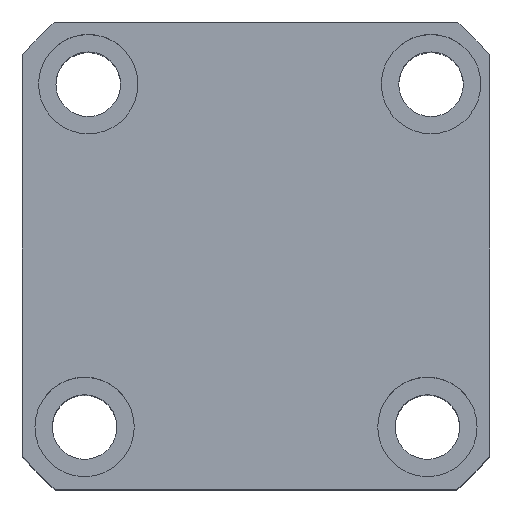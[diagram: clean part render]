
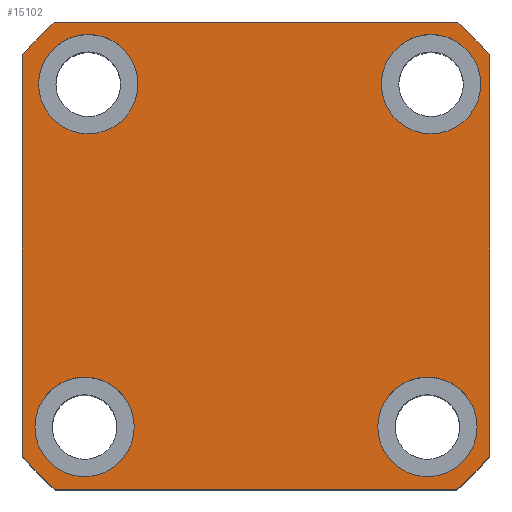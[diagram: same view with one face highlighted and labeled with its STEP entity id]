
A CAD part, top view. The second image highlights one B-rep face of the part: STEP entity #15102.
In plain terms, the highlighted planar face has unit normal (0, 0, 1) as drawn and (0, 0, -1) by its records, which use the part's own axes.
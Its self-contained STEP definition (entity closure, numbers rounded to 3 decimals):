
#124 = DIRECTION ( 'NONE',  ( -1., 0., 0. ) ) ;
#137 = CIRCLE ( 'NONE', #22017, 62. ) ;
#205 = ORIENTED_EDGE ( 'NONE', *, *, #16658, .F. ) ;
#266 = DIRECTION ( 'NONE',  ( 1., 0., 0. ) ) ;
#482 = CARTESIAN_POINT ( 'NONE',  ( 47., 47., 0. ) ) ;
#547 = ORIENTED_EDGE ( 'NONE', *, *, #16202, .F. ) ;
#667 = DIRECTION ( 'NONE',  ( -1., 0., 0. ) ) ;
#682 = DIRECTION ( 'NONE',  ( 1., 0., 0. ) ) ;
#909 = DIRECTION ( 'NONE',  ( 0., 0., -1. ) ) ;
#1150 = VERTEX_POINT ( 'NONE', #22424 ) ;
#1225 = LINE ( 'NONE', #21141, #5268 ) ;
#1463 = DIRECTION ( 'NONE',  ( 0., 0., -1. ) ) ;
#1491 = CARTESIAN_POINT ( 'NONE',  ( -47., -47., 0. ) ) ;
#1725 = DIRECTION ( 'NONE',  ( -1., 0., 0. ) ) ;
#1920 = VERTEX_POINT ( 'NONE', #9656 ) ;
#1936 = VECTOR ( 'NONE', #11849, 1000. ) ;
#2237 = CIRCLE ( 'NONE', #6713, 10. ) ;
#2371 = ORIENTED_EDGE ( 'NONE', *, *, #19725, .F. ) ;
#2539 = VERTEX_POINT ( 'NONE', #18396 ) ;
#2632 = EDGE_LOOP ( 'NONE', ( #7541, #17311 ) ) ;
#2815 = AXIS2_PLACEMENT_3D ( 'NONE', #9565, #21713, #11296 ) ;
#3067 = CARTESIAN_POINT ( 'NONE',  ( -43.77, -34.5, 0. ) ) ;
#3117 = CARTESIAN_POINT ( 'NONE',  ( -33.77, -34.5, 0. ) ) ;
#3257 = CIRCLE ( 'NONE', #9632, 62. ) ;
#4043 = DIRECTION ( 'NONE',  ( 0., 0., -1. ) ) ;
#4318 = CARTESIAN_POINT ( 'NONE',  ( 40.435, 47., 0. ) ) ;
#4325 = EDGE_CURVE ( 'NONE', #8330, #2539, #2237, .T. ) ;
#4778 = EDGE_CURVE ( 'NONE', #9327, #12151, #22036, .T. ) ;
#4864 = DIRECTION ( 'NONE',  ( -1., 0., 0. ) ) ;
#5256 = DIRECTION ( 'NONE',  ( 0., 0., -1. ) ) ;
#5268 = VECTOR ( 'NONE', #8994, 1000. ) ;
#6358 = PLANE ( 'NONE',  #16643 ) ;
#6444 = VERTEX_POINT ( 'NONE', #14770 ) ;
#6525 = LINE ( 'NONE', #1491, #1936 ) ;
#6598 = AXIS2_PLACEMENT_3D ( 'NONE', #3117, #15248, #4864 ) ;
#6700 = CARTESIAN_POINT ( 'NONE',  ( 40.435, -47., 0. ) ) ;
#6711 = EDGE_CURVE ( 'NONE', #20069, #6730, #6525, .T. ) ;
#6713 = AXIS2_PLACEMENT_3D ( 'NONE', #15636, #5256, #17377 ) ;
#6730 = VERTEX_POINT ( 'NONE', #6700 ) ;
#7252 = VERTEX_POINT ( 'NONE', #15774 ) ;
#7359 = DIRECTION ( 'NONE',  ( 0., 0., 1. ) ) ;
#7404 = EDGE_CURVE ( 'NONE', #6730, #12649, #3257, .T. ) ;
#7541 = ORIENTED_EDGE ( 'NONE', *, *, #14307, .F. ) ;
#8063 = ORIENTED_EDGE ( 'NONE', *, *, #17448, .F. ) ;
#8101 = DIRECTION ( 'NONE',  ( 1., 0., 0. ) ) ;
#8148 = CARTESIAN_POINT ( 'NONE',  ( -47., 40.435, 0. ) ) ;
#8191 = CARTESIAN_POINT ( 'NONE',  ( -44.5, 34.5, 0. ) ) ;
#8250 = CIRCLE ( 'NONE', #13410, 10. ) ;
#8330 = VERTEX_POINT ( 'NONE', #20653 ) ;
#8422 = CARTESIAN_POINT ( 'NONE',  ( 0., 0., 0. ) ) ;
#8470 = EDGE_CURVE ( 'NONE', #2539, #8330, #12733, .T. ) ;
#8784 = AXIS2_PLACEMENT_3D ( 'NONE', #8422, #20564, #10149 ) ;
#8896 = CIRCLE ( 'NONE', #11245, 10. ) ;
#8994 = DIRECTION ( 'NONE',  ( 0., -1., 0. ) ) ;
#9119 = VERTEX_POINT ( 'NONE', #8191 ) ;
#9142 = CIRCLE ( 'NONE', #22282, 10. ) ;
#9161 = FACE_OUTER_BOUND ( 'NONE', #19491, .T. ) ;
#9327 = VERTEX_POINT ( 'NONE', #15035 ) ;
#9406 = CIRCLE ( 'NONE', #14880, 62. ) ;
#9553 = CARTESIAN_POINT ( 'NONE',  ( -24.5, 34.5, 0. ) ) ;
#9565 = CARTESIAN_POINT ( 'NONE',  ( -33.77, -34.5, 0. ) ) ;
#9632 = AXIS2_PLACEMENT_3D ( 'NONE', #17730, #7359, #19492 ) ;
#9656 = CARTESIAN_POINT ( 'NONE',  ( 45.23, -34.5, 0. ) ) ;
#9665 = CARTESIAN_POINT ( 'NONE',  ( -40.435, -47., 0. ) ) ;
#9690 = VECTOR ( 'NONE', #1725, 1000. ) ;
#9710 = FACE_BOUND ( 'NONE', #11447, .T. ) ;
#9930 = EDGE_CURVE ( 'NONE', #12649, #1150, #13801, .T. ) ;
#10149 = DIRECTION ( 'NONE',  ( 1., 0., 0. ) ) ;
#10191 = VERTEX_POINT ( 'NONE', #9553 ) ;
#10216 = EDGE_LOOP ( 'NONE', ( #11051, #547 ) ) ;
#10463 = DIRECTION ( 'NONE',  ( 0., 0., -1. ) ) ;
#10615 = DIRECTION ( 'NONE',  ( 0., 0., 1. ) ) ;
#10835 = DIRECTION ( 'NONE',  ( 0., 1., 0. ) ) ;
#11005 = DIRECTION ( 'NONE',  ( 0., 0., -1. ) ) ;
#11022 = DIRECTION ( 'NONE',  ( 0., 0., 1. ) ) ;
#11051 = ORIENTED_EDGE ( 'NONE', *, *, #16915, .F. ) ;
#11245 = AXIS2_PLACEMENT_3D ( 'NONE', #11821, #1463, #13559 ) ;
#11252 = CARTESIAN_POINT ( 'NONE',  ( 35.23, -34.5, 0. ) ) ;
#11296 = DIRECTION ( 'NONE',  ( -1., 0., 0. ) ) ;
#11447 = EDGE_LOOP ( 'NONE', ( #21542, #19786 ) ) ;
#11581 = CARTESIAN_POINT ( 'NONE',  ( -47., -40.435, 0. ) ) ;
#11821 = CARTESIAN_POINT ( 'NONE',  ( 35.23, -34.5, 0. ) ) ;
#11849 = DIRECTION ( 'NONE',  ( 1., 0., 0. ) ) ;
#12140 = ORIENTED_EDGE ( 'NONE', *, *, #8470, .F. ) ;
#12151 = VERTEX_POINT ( 'NONE', #3067 ) ;
#12649 = VERTEX_POINT ( 'NONE', #17599 ) ;
#12733 = CIRCLE ( 'NONE', #15899, 10. ) ;
#12995 = DIRECTION ( 'NONE',  ( -1., 0., 0. ) ) ;
#13238 = CARTESIAN_POINT ( 'NONE',  ( 0., 0., 0. ) ) ;
#13252 = VECTOR ( 'NONE', #10835, 1000. ) ;
#13410 = AXIS2_PLACEMENT_3D ( 'NONE', #11252, #909, #12995 ) ;
#13475 = CIRCLE ( 'NONE', #8784, 62. ) ;
#13559 = DIRECTION ( 'NONE',  ( -1., 0., 0. ) ) ;
#13616 = EDGE_LOOP ( 'NONE', ( #12140, #22187 ) ) ;
#13767 = FACE_BOUND ( 'NONE', #13616, .T. ) ;
#13801 = LINE ( 'NONE', #482, #13252 ) ;
#14066 = CIRCLE ( 'NONE', #6598, 10. ) ;
#14306 = LINE ( 'NONE', #20674, #9690 ) ;
#14307 = EDGE_CURVE ( 'NONE', #12151, #9327, #14066, .T. ) ;
#14385 = EDGE_CURVE ( 'NONE', #1920, #6444, #8896, .T. ) ;
#14416 = CARTESIAN_POINT ( 'NONE',  ( -34.5, 34.5, 0. ) ) ;
#14570 = ORIENTED_EDGE ( 'NONE', *, *, #19842, .F. ) ;
#14770 = CARTESIAN_POINT ( 'NONE',  ( 25.23, -34.5, 0. ) ) ;
#14880 = AXIS2_PLACEMENT_3D ( 'NONE', #21027, #10615, #266 ) ;
#15035 = CARTESIAN_POINT ( 'NONE',  ( -23.77, -34.5, 0. ) ) ;
#15102 = ADVANCED_FACE ( 'NONE', ( #9710, #18926, #18392, #13767, #9161 ), #6358, .F. ) ;
#15121 = VERTEX_POINT ( 'NONE', #11581 ) ;
#15248 = DIRECTION ( 'NONE',  ( 0., 0., -1. ) ) ;
#15636 = CARTESIAN_POINT ( 'NONE',  ( 34.5, 34.5, 0. ) ) ;
#15721 = AXIS2_PLACEMENT_3D ( 'NONE', #14416, #4043, #16154 ) ;
#15774 = CARTESIAN_POINT ( 'NONE',  ( -40.435, 47., 0. ) ) ;
#15807 = EDGE_CURVE ( 'NONE', #1150, #18354, #13475, .T. ) ;
#15899 = AXIS2_PLACEMENT_3D ( 'NONE', #20885, #10463, #124 ) ;
#16154 = DIRECTION ( 'NONE',  ( -1., 0., 0. ) ) ;
#16202 = EDGE_CURVE ( 'NONE', #10191, #9119, #17002, .T. ) ;
#16643 = AXIS2_PLACEMENT_3D ( 'NONE', #13238, #18478, #8101 ) ;
#16658 = EDGE_CURVE ( 'NONE', #18354, #7252, #14306, .T. ) ;
#16915 = EDGE_CURVE ( 'NONE', #9119, #10191, #9142, .T. ) ;
#17002 = CIRCLE ( 'NONE', #15721, 10. ) ;
#17311 = ORIENTED_EDGE ( 'NONE', *, *, #4778, .F. ) ;
#17377 = DIRECTION ( 'NONE',  ( -1., 0., 0. ) ) ;
#17448 = EDGE_CURVE ( 'NONE', #15121, #20069, #9406, .T. ) ;
#17599 = CARTESIAN_POINT ( 'NONE',  ( 47., -40.435, 0. ) ) ;
#17730 = CARTESIAN_POINT ( 'NONE',  ( 0., 0., 0. ) ) ;
#17815 = ORIENTED_EDGE ( 'NONE', *, *, #6711, .F. ) ;
#18354 = VERTEX_POINT ( 'NONE', #4318 ) ;
#18392 = FACE_BOUND ( 'NONE', #10216, .T. ) ;
#18396 = CARTESIAN_POINT ( 'NONE',  ( 24.5, 34.5, 0. ) ) ;
#18478 = DIRECTION ( 'NONE',  ( 0., 0., 1. ) ) ;
#18903 = ORIENTED_EDGE ( 'NONE', *, *, #7404, .F. ) ;
#18926 = FACE_BOUND ( 'NONE', #2632, .T. ) ;
#19491 = EDGE_LOOP ( 'NONE', ( #21098, #20025, #18903, #17815, #8063, #2371, #14570, #205 ) ) ;
#19492 = DIRECTION ( 'NONE',  ( 1., 0., 0. ) ) ;
#19725 = EDGE_CURVE ( 'NONE', #20201, #15121, #1225, .T. ) ;
#19786 = ORIENTED_EDGE ( 'NONE', *, *, #14385, .F. ) ;
#19842 = EDGE_CURVE ( 'NONE', #7252, #20201, #137, .T. ) ;
#19996 = EDGE_CURVE ( 'NONE', #6444, #1920, #8250, .T. ) ;
#20025 = ORIENTED_EDGE ( 'NONE', *, *, #9930, .F. ) ;
#20069 = VERTEX_POINT ( 'NONE', #9665 ) ;
#20201 = VERTEX_POINT ( 'NONE', #8148 ) ;
#20564 = DIRECTION ( 'NONE',  ( 0., 0., 1. ) ) ;
#20653 = CARTESIAN_POINT ( 'NONE',  ( 44.5, 34.5, 0. ) ) ;
#20674 = CARTESIAN_POINT ( 'NONE',  ( -47., 47., 0. ) ) ;
#20885 = CARTESIAN_POINT ( 'NONE',  ( 34.5, 34.5, 0. ) ) ;
#21027 = CARTESIAN_POINT ( 'NONE',  ( 0., 0., 0. ) ) ;
#21098 = ORIENTED_EDGE ( 'NONE', *, *, #15807, .F. ) ;
#21141 = CARTESIAN_POINT ( 'NONE',  ( -47., 47., 0. ) ) ;
#21438 = CARTESIAN_POINT ( 'NONE',  ( -34.5, 34.5, 0. ) ) ;
#21454 = CARTESIAN_POINT ( 'NONE',  ( 0., 0., 0. ) ) ;
#21542 = ORIENTED_EDGE ( 'NONE', *, *, #19996, .F. ) ;
#21713 = DIRECTION ( 'NONE',  ( 0., 0., -1. ) ) ;
#22017 = AXIS2_PLACEMENT_3D ( 'NONE', #21454, #11022, #682 ) ;
#22036 = CIRCLE ( 'NONE', #2815, 10. ) ;
#22187 = ORIENTED_EDGE ( 'NONE', *, *, #4325, .F. ) ;
#22282 = AXIS2_PLACEMENT_3D ( 'NONE', #21438, #11005, #667 ) ;
#22424 = CARTESIAN_POINT ( 'NONE',  ( 47., 40.435, 0. ) ) ;
